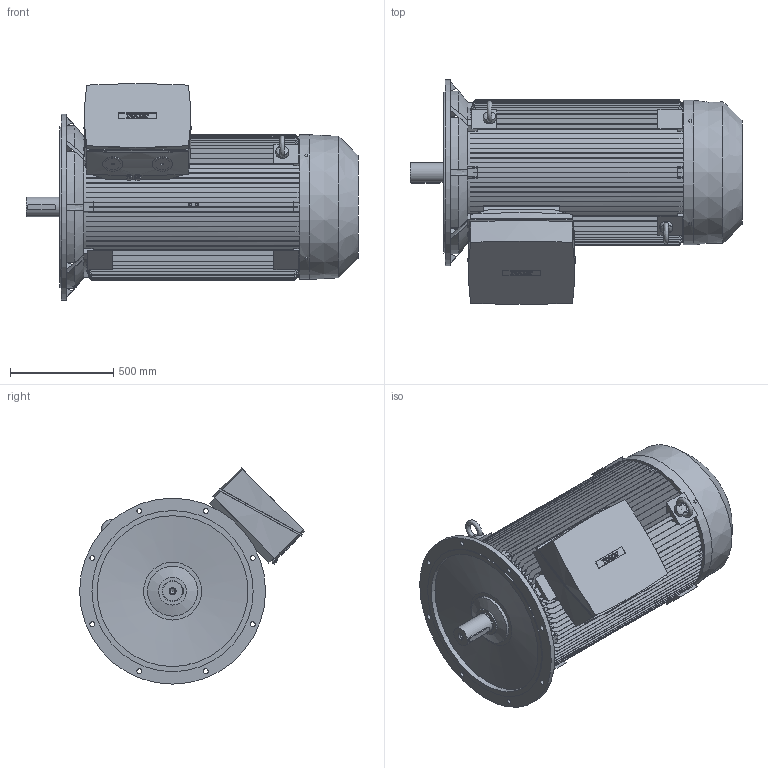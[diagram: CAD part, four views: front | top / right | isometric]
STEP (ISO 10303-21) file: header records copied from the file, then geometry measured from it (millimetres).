
FILE_DESCRIPTION (( 'STEP AP214' ), '1' );
FILE_NAME ('7RN355L04E34 IM3011.STEP', '2017-11-17T10:34:45', ( 'rbc_ict' ), ( '' ), 'SwSTEP 2.0', 'SolidWorks 2015', '' );
FILE_SCHEMA (( 'AUTOMOTIVE_DESIGN' ));
Length unit declared in the file: millimetre
Products named in the file (1): 7RN355L04E34 IM3011
Bounding box: 1607 x 1088.13 x 1046.41 mm (x, y, z)
Volume: 531389564.2 mm3; surface area: 12439597.1 mm2
Topology: 1 solids, 17 shells, 1250 faces, 3488 edges, 2299 vertices
Faces by surface type: plane 831, bspline 214, cylinder 193, cone 12
Full cylindrical faces by diameter (mm): 12 x4, 20 x2, 23 x2, 24 x10, 29 x2, 31 x2, 60 x2, 76 x2, 95 x1, 97 x2, 100 x1, 135 x1, 242 x1, 700 x1, 730 x1, 780 x1, 900 x1
Entity records: 47712 total; most frequent: CARTESIAN_POINT 17706, ORIENTED_EDGE 6848, DIRECTION 5304, EDGE_CURVE 3424, VERTEX_POINT 2281, LINE 2006, VECTOR 2006, AXIS2_PLACEMENT_3D 1649
